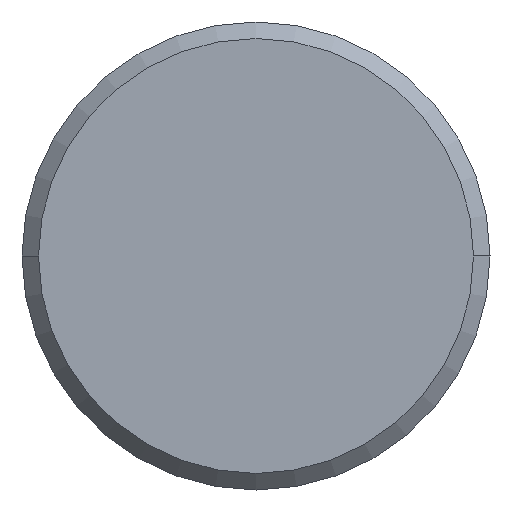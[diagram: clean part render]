
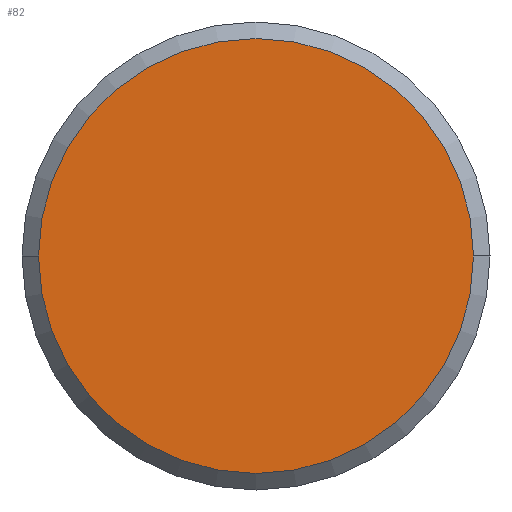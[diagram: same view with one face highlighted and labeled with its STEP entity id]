
A CAD part, left-side view. The second image highlights one B-rep face of the part: STEP entity #82.
In plain terms, the highlighted planar face has unit normal (-1, 0, 0).
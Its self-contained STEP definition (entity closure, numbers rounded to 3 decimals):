
#82 = ADVANCED_FACE( '', ( #95 ), #96, .T. );
#95 = FACE_OUTER_BOUND( '', #107, .T. );
#96 = PLANE( '', #108 );
#107 = EDGE_LOOP( '', ( #142, #143 ) );
#108 = AXIS2_PLACEMENT_3D( '', #144, #145, #146 );
#142 = ORIENTED_EDGE( '', *, *, #150, .T. );
#143 = ORIENTED_EDGE( '', *, *, #156, .T. );
#144 = CARTESIAN_POINT( '', ( 0., 1.394, 0. ) );
#145 = DIRECTION( '', ( -1., 0., 0. ) );
#146 = DIRECTION( '', ( 0., 1., 0. ) );
#150 = EDGE_CURVE( '', #158, #162, #164, .T. );
#156 = EDGE_CURVE( '', #162, #158, #172, .T. );
#158 = VERTEX_POINT( '', #174 );
#162 = VERTEX_POINT( '', #179 );
#164 = CIRCLE( '', #182, 2.788 );
#172 = CIRCLE( '', #192, 2.788 );
#174 = CARTESIAN_POINT( '', ( 0., 2.788, 0. ) );
#179 = CARTESIAN_POINT( '', ( 0., -2.788, 0. ) );
#182 = AXIS2_PLACEMENT_3D( '', #198, #199, #200 );
#192 = AXIS2_PLACEMENT_3D( '', #212, #213, #214 );
#198 = CARTESIAN_POINT( '', ( 0., 0., 0. ) );
#199 = DIRECTION( '', ( -1., 0., 0. ) );
#200 = DIRECTION( '', ( 0., 1., 0. ) );
#212 = CARTESIAN_POINT( '', ( 0., 0., 0. ) );
#213 = DIRECTION( '', ( -1., 0., 0. ) );
#214 = DIRECTION( '', ( 0., 1., 0. ) );
